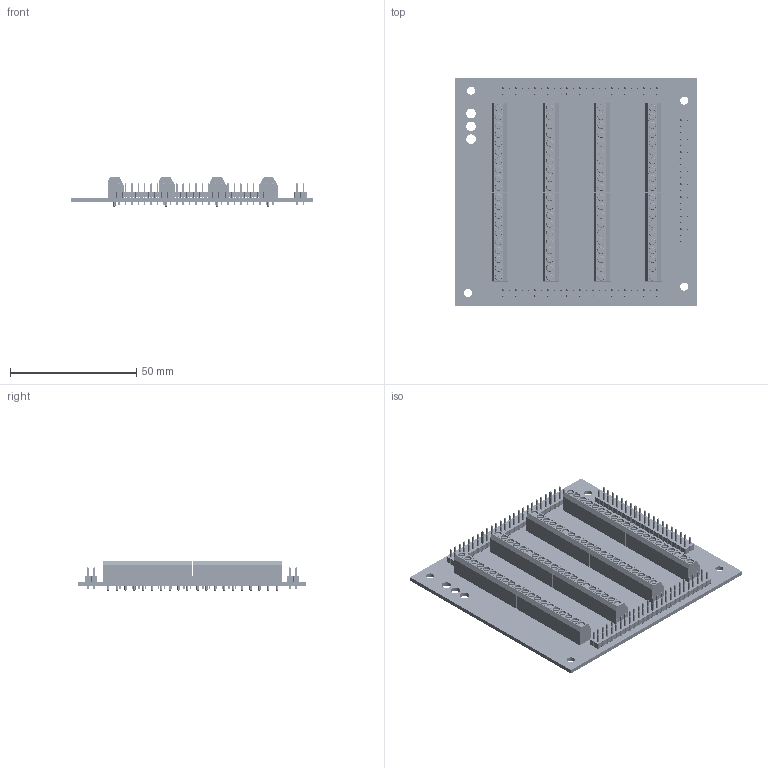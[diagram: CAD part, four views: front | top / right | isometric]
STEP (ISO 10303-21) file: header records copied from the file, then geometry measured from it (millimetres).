
FILE_DESCRIPTION(('Open CASCADE Model'),'2;1');
FILE_NAME('Open CASCADE Shape Model','2024-09-17T17:44:31',('Author'),( 'Open CASCADE'),'Open CASCADE STEP processor 7.5','Open CASCADE 7.5' ,'Unknown');
FILE_SCHEMA(('AUTOMOTIVE_DESIGN { 1 0 10303 214 1 1 1 1 }'));
Length unit declared in the file: millimetre
Products named in the file (16): PCB; Board; Open CASCADE STEP translator 7.5 2.1.1; ST1; ED555-10DS v1; ST2; ST5; ST6; ST7; ST8; ST3; ST4; HDR1; HEADER_MALE_PIN_2P54MM; HDR2A; HDR2B
Assembly tree (161 placements, depth 3):
  PCB
    Board
      Open CASCADE STEP translator 7.5 2.1.1
    ST1
      ED555-10DS v1
    ST2
      ED555-10DS v1
    ST5
      ED555-10DS v1
    ST6
      ED555-10DS v1
    ST7
      ED555-10DS v1
    ST8
      ED555-10DS v1
    ST3
      ED555-10DS v1
    ST4
      ED555-10DS v1
    HDR1
      HEADER_MALE_PIN_2P54MM  x40
    HDR2A
      HEADER_MALE_PIN_2P54MM  x50
    HDR2B
      HEADER_MALE_PIN_2P54MM  x50
Bounding box: 95.89 x 90.17 x 11.75 mm (x, y, z)
Volume: 26876.1 mm3; surface area: 42784.8 mm2
Topology: 149 solids, 149 shells, 9953 faces, 26173 edges, 16782 vertices
Faces by surface type: plane 7502, cylinder 1731, torus 400, cone 320
Full cylindrical faces by diameter (mm): 0.6 x144, 0.9 x80, 0.914 x140, 1.372 x80, 2 x80, 3.2 x4, 3.81 x3
Entity records: 37609 total; most frequent: CARTESIAN_POINT 6956, DIRECTION 5538, ORIENTED_EDGE 5248, EDGE_CURVE 2624, AXIS2_PLACEMENT_3D 2112, VERTEX_POINT 1710, FACE_BOUND 1414, EDGE_LOOP 1414
